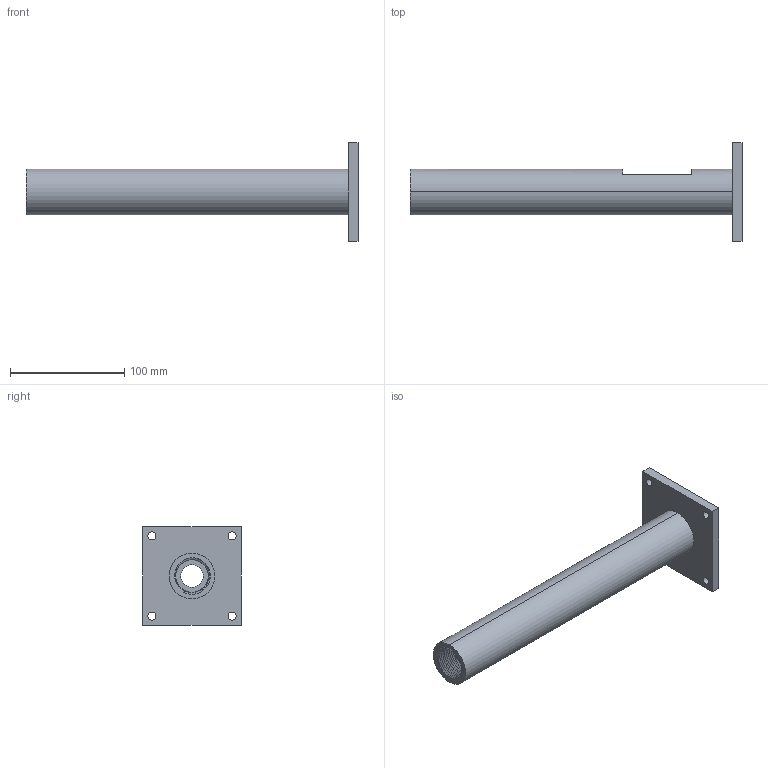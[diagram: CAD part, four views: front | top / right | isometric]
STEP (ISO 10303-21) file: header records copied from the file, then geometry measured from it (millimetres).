
FILE_DESCRIPTION (( 'STEP AP203' ), '1' );
FILE_NAME ('套筒1.STEP', '2021-03-30T16:59:44', ( '微软用户' ), ( '微软中国' ), 'SwSTEP 2.0', 'SolidWorks 2013', '' );
FILE_SCHEMA (( 'CONFIG_CONTROL_DESIGN' ));
Length unit declared in the file: millimetre
Products named in the file (1): 杶芠1
Bounding box: 290 x 86 x 86 mm (x, y, z)
Volume: 302442.1 mm3; surface area: 73224.2 mm2
Topology: 1 solids, 1 shells, 44 faces, 114 edges, 74 vertices
Faces by surface type: cylinder 23, plane 13, cone 6, bspline 2
Entity records: 3143 total; most frequent: CARTESIAN_POINT 1961, ORIENTED_EDGE 228, DIRECTION 222, EDGE_CURVE 114, AXIS2_PLACEMENT_3D 87, VERTEX_POINT 74, EDGE_LOOP 66, LINE 48
